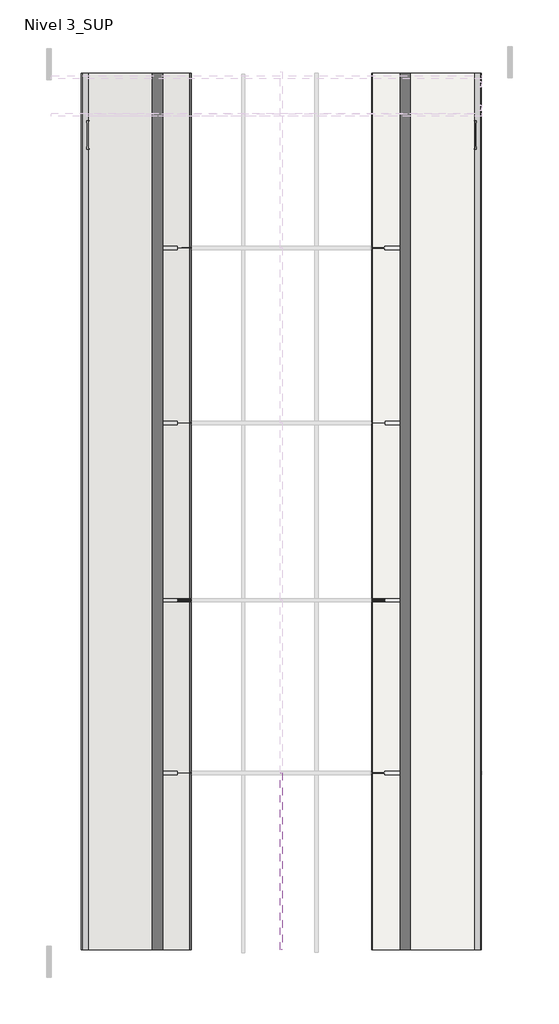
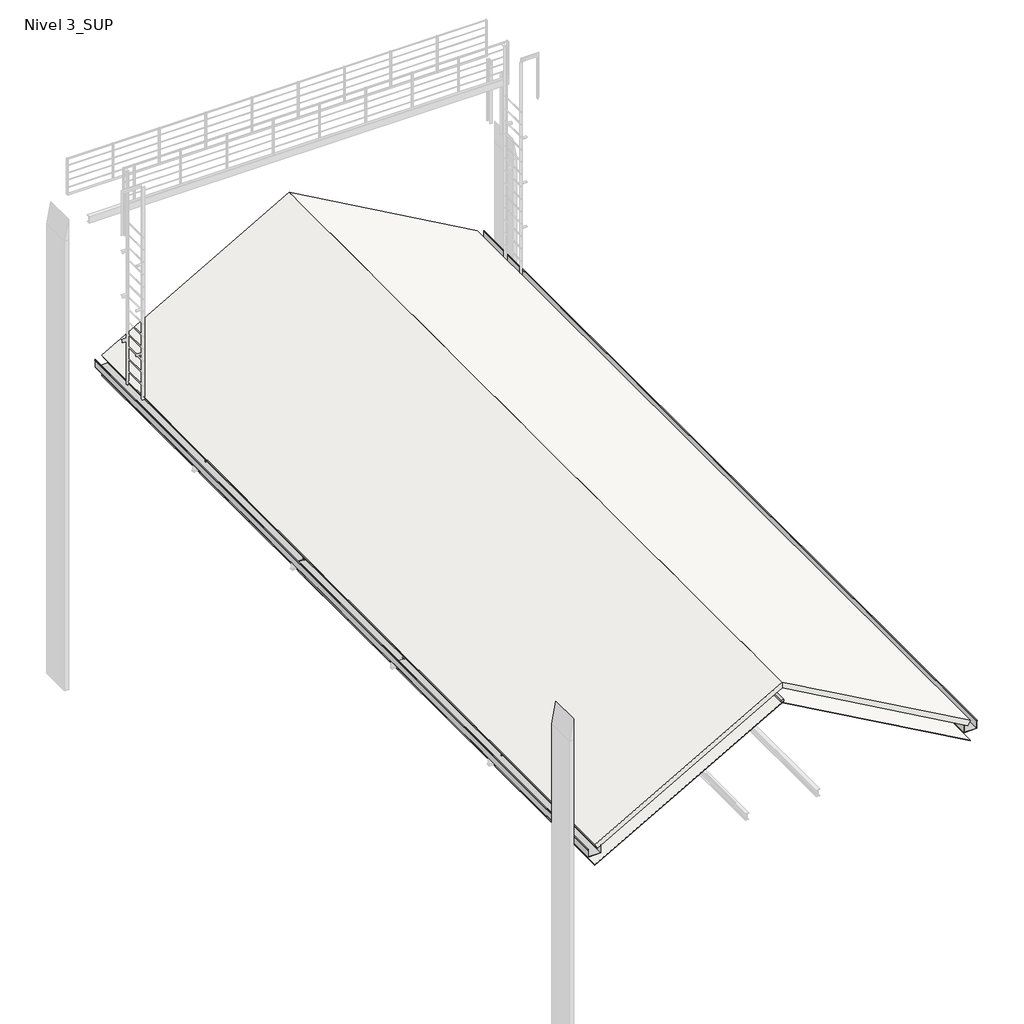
# One storey, part 1 of 10: 2 coverings, 2 pipe segments, 2 roofs, 1 beam.
"""IFC4 building model written with IfcOpenShell, lengths in millimetres."""

from ifc_helpers import new_model, si_unit, frame, origin, place, context, project, spatial, polyline, outline, extrude, transform, mapped, element, save
from components import madera_50x50mm_d2b621cf

model = new_model("IFC4")

# Units and contexts
model_context = context("Model", 3, world=origin())
ifc_project = project(units=[si_unit("LENGTHUNIT", "METRE", prefix="MILLI")], contexts=[model_context])

# Site, building, storey
site = spatial("IfcSite", under=ifc_project)
building = spatial("IfcBuilding", under=site)
storey = spatial("IfcBuildingStorey", under=building, Name="Nivel 3_SUP", Elevation=13230.0)

# Beam
placement = place(None, origin())
madera_50x50mm_shape = madera_50x50mm_d2b621cf(model_context)
element("IfcBeam", 1, ObjectType="Madera : 50x50mm", at=placement, inside=storey, context=model_context, shape_type="MappedRepresentation", body=[
    mapped(madera_50x50mm_shape, transform((10493.4837907, -3919.8927727, 15615.0), x_axis=(0.0, 1.0, 0.0), y_axis=(-1.0, 0.0, 0.0), z_axis=(0.0, 0.0, 1.0))),
])

# Coverings
element("IfcCovering", 2, ObjectType="ARQ-CL-Mad-Eucaliptus", at=placement, inside=storey, context=model_context, shape_type="SweptSolid", body=[
    extrude(outline(polyline([(15582.4315112, 10493.4837907), (13152.9314777, 6193.4837313), (13138.0, 6193.4837313), (15567.5000336, 10493.4837907), (15582.4315112, 10493.4837907)])), frame((0.0, 9854.7572273, 0.0), z_axis=(0.0, 1.0, 0.0), x_axis=(0.0, 0.0, 1.0)), (0.0, 0.0, 1.0), 3888.85),
    extrude(outline(polyline([(15582.4315112, 10493.4837907), (13152.9314777, 6193.4837313), (13138.0, 6193.4837313), (15567.5000336, 10493.4837907), (15582.4315112, 10493.4837907)])), frame((0.0, -5806.3671234, 0.0), z_axis=(0.0, 1.0, 0.0), x_axis=(0.0, 0.0, 1.0)), (0.0, 0.0, 1.0), 3939.8243507),
    extrude(outline(polyline([(15582.4315112, 10493.4837907), (13152.9314777, 6193.4837313), (13138.0, 6193.4837313), (15567.5000336, 10493.4837907), (15582.4315112, 10493.4837907)])), frame((0.0, 5947.7572273, 0.0), z_axis=(0.0, 1.0, 0.0), x_axis=(0.0, 0.0, 1.0)), (0.0, 0.0, 1.0), 3900.7),
    extrude(outline(polyline([(15582.4315112, 10493.4837907), (13152.9314777, 6193.4837313), (13138.0, 6193.4837313), (15567.5000336, 10493.4837907), (15582.4315112, 10493.4837907)])), frame((0.0, 1992.7572273, 0.0), z_axis=(0.0, 1.0, 0.0), x_axis=(0.0, 0.0, 1.0)), (0.0, 0.0, 1.0), 3948.7),
    extrude(outline(polyline([(15582.4315112, 10493.4837907), (13152.9314777, 6193.4837313), (13138.0, 6193.4837313), (15567.5000336, 10493.4837907), (15582.4315112, 10493.4837907)])), frame((0.0, -1860.2427727, 0.0), z_axis=(0.0, 1.0, 0.0), x_axis=(0.0, 0.0, 1.0)), (0.0, 0.0, 1.0), 3846.7),
])
element("IfcCovering", 3, ObjectType="ARQ-CL-Mad-Eucaliptus", at=placement, inside=storey, context=model_context, shape_type="SweptSolid", body=[
    extrude(outline(polyline([(13152.9314777, 14793.4838502), (15582.4315112, 10493.4837907), (15567.5000336, 10493.4837907), (13138.0, 14793.4838502), (13152.9314777, 14793.4838502)])), frame((0.0, -5806.3671234, 0.0), z_axis=(0.0, 1.0, 0.0), x_axis=(0.0, 0.0, 1.0)), (0.0, 0.0, 1.0), 3939.8243507),
    extrude(outline(polyline([(13152.9314777, 14793.4838502), (15582.4315112, 10493.4837907), (15567.5000336, 10493.4837907), (13138.0, 14793.4838502), (13152.9314777, 14793.4838502)])), frame((0.0, 9854.7572273, 0.0), z_axis=(0.0, 1.0, 0.0), x_axis=(0.0, 0.0, 1.0)), (0.0, 0.0, 1.0), 3888.85),
    extrude(outline(polyline([(13152.9314777, 14793.4838502), (15582.4315112, 10493.4837907), (15567.5000336, 10493.4837907), (13138.0, 14793.4838502), (13152.9314777, 14793.4838502)])), frame((0.0, 5947.7572273, 0.0), z_axis=(0.0, 1.0, 0.0), x_axis=(0.0, 0.0, 1.0)), (0.0, 0.0, 1.0), 3900.7),
    extrude(outline(polyline([(13152.9314777, 14793.4838502), (15582.4315112, 10493.4837907), (15567.5000336, 10493.4837907), (13138.0, 14793.4838502), (13152.9314777, 14793.4838502)])), frame((0.0, 1992.7572273, 0.0), z_axis=(0.0, 1.0, 0.0), x_axis=(0.0, 0.0, 1.0)), (0.0, 0.0, 1.0), 3948.7),
    extrude(outline(polyline([(13152.9314777, 14793.4838502), (15582.4315112, 10493.4837907), (15567.5000336, 10493.4837907), (13138.0, 14793.4838502), (13152.9314777, 14793.4838502)])), frame((0.0, -1860.2427727, 0.0), z_axis=(0.0, 1.0, 0.0), x_axis=(0.0, 0.0, 1.0)), (0.0, 0.0, 1.0), 3846.7),
])

# Pipe segments
element("IfcPipeSegment", 4, ObjectType="ARQ-CAN-EXT-20x30-Hi", at=placement, inside=storey, context=model_context, shape_type="SweptSolid", body=[
    extrude(outline(polyline([(13390.0, 14657.4119321), (13390.0, 14944.7119321), (13564.6, 14944.7119321), (13564.6, 14957.4119321), (13577.3, 14957.4119321), (13577.3, 14944.7119321), (13574.125, 14944.7119321), (13574.125, 14954.2369321), (13567.775, 14954.2369321), (13567.775, 14941.5369321), (13393.175, 14941.5369321), (13393.175, 14660.5869321), (13590.0, 14660.5869321), (13590.0, 14657.4119321), (13390.0, 14657.4119321)])), frame((0.0, -5806.3671234, 0.0), z_axis=(0.0, 1.0, 0.0), x_axis=(0.0, 0.0, 1.0)), (0.0, 0.0, 1.0), 19549.9743507),
])
element("IfcPipeSegment", 5, ObjectType="ARQ-CAN-EXT-20x30-Hi", at=placement, inside=storey, context=model_context, shape_type="SweptSolid", body=[
    extrude(outline(polyline([(13390.0, 6333.9088689), (13590.0, 6333.9088689), (13590.0, 6330.7338689), (13393.175, 6330.7338689), (13393.175, 6049.7838689), (13567.775, 6049.7838689), (13567.775, 6037.0838689), (13574.125, 6037.0838689), (13574.125, 6046.6088689), (13577.3, 6046.6088689), (13577.3, 6033.9088689), (13564.6, 6033.9088689), (13564.6, 6046.6088689), (13390.0, 6046.6088689), (13390.0, 6333.9088689)])), frame((0.0, -5806.3671234, 0.0), z_axis=(0.0, 1.0, 0.0), x_axis=(0.0, 0.0, 1.0)), (0.0, 0.0, 1.0), 19549.9743507),
])

# Roofs
element("IfcRoof", 6, ObjectType="ARQ-CU-EX-12-Iso", at=placement, inside=storey, context=model_context, shape_type="SweptSolid", body=[
    extrude(outline(polyline([(15926.0, 10493.4838502), (13529.851756, 14734.4541935), (13634.3290245, 14793.4838502), (16063.8290245, 10493.4838502), (15926.0, 10493.4838502)])), frame((0.0, -5806.3671234, 0.0), z_axis=(0.0, 1.0, 0.0), x_axis=(0.0, 0.0, 1.0)), (0.0, 0.0, 1.0), 19549.9743507),
])
element("IfcRoof", 7, ObjectType="ARQ-CU-EX-12-Iso", at=placement, inside=storey, context=model_context, shape_type="SweptSolid", body=[
    extrude(outline(polyline([(13529.851756, 6252.513388), (15926.0, 10493.4837313), (16063.8290245, 10493.4837313), (13634.3290245, 6193.4837313), (13529.851756, 6252.513388)])), frame((0.0, -5806.3671234, 0.0), z_axis=(0.0, 1.0, 0.0), x_axis=(0.0, 0.0, 1.0)), (0.0, 0.0, 1.0), 19549.9743507),
])

save(model, "model.ifc")
